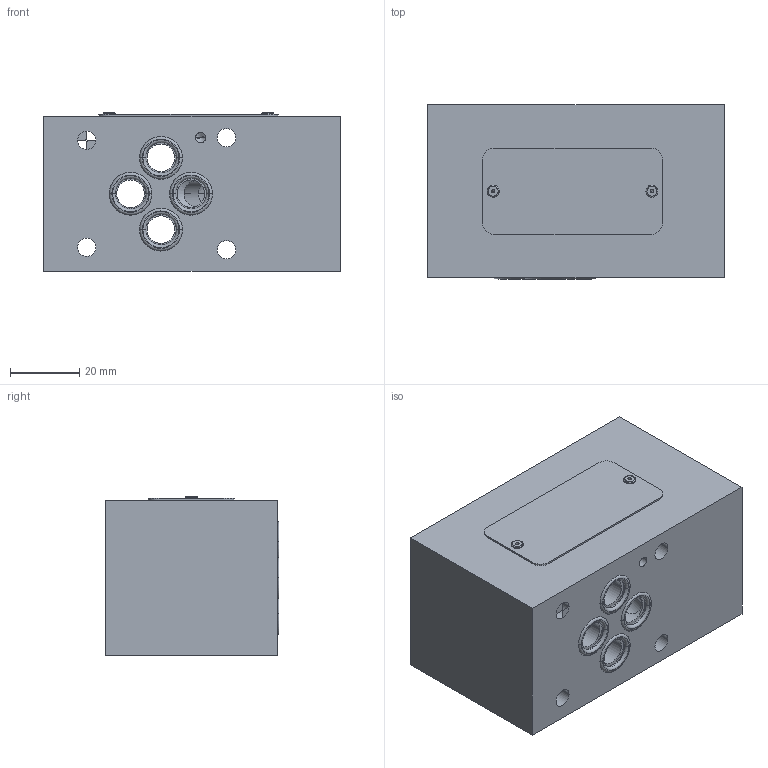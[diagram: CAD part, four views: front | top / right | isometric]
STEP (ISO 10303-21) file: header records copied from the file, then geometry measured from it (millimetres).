
FILE_DESCRIPTION((''),'2;1');
FILE_NAME('31062900_ASM','2023-10-12T',('l.soukupova'),(''),'PRO/ENGINEER BY PARAMETRIC TECHNOLOGY CORPORATION, 2015440','PRO/ENGINEER BY PARAMETRIC TECHNOLOGY CORPORATION, 2015440','');
FILE_SCHEMA(('AUTOMOTIVE_DESIGN { 1 0 10303 214 1 1 1 1 }'));
Length unit declared in the file: millimetre
Products named in the file (8): 31063001; RD_LABEL_25X52_159703; AF_1932_16485; ORAR00012_201524_AF8; ORAR00012_201524_AF9; ORAR00012_201524_AF10; ORAR00012_201524_AF11; 31062900_ASM
Assembly tree (8 placements, depth 2):
  31062900_ASM
    31063001
    RD_LABEL_25X52_159703
    AF_1932_16485  x2
    ORAR00012_201524_AF8
    ORAR00012_201524_AF9
    ORAR00012_201524_AF10
    ORAR00012_201524_AF11
Bounding box: 86 x 50.38 x 46 mm (x, y, z)
Volume: 167909 mm3; surface area: 35439.3 mm2
Topology: 8 solids, 11 shells, 171 faces, 524 edges, 441 vertices
Faces by surface type: cylinder 82, torus 36, plane 34, cone 19
Entity records: 9312 total; most frequent: CARTESIAN_POINT 1419, DIRECTION 1145, ORIENTED_EDGE 708, PRESENTATION_STYLE_ASSIGNMENT 638, STYLED_ITEM 545, CURVE_STYLE 536, AXIS2_PLACEMENT_3D 460, EDGE_CURVE 360
